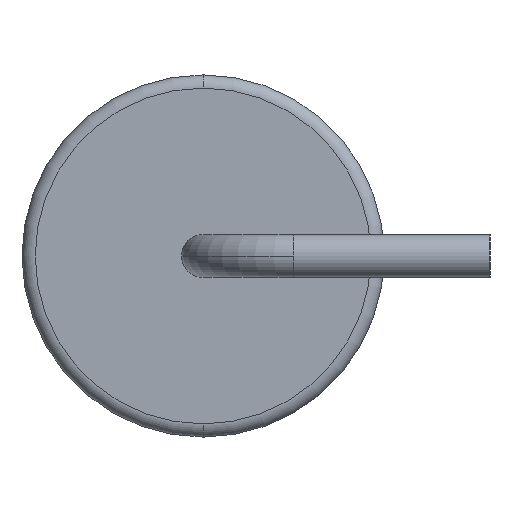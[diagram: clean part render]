
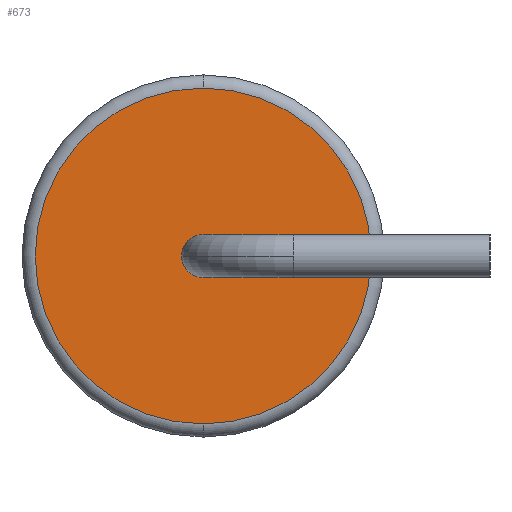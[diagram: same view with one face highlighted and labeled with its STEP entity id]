
A CAD part, left-side view. The second image highlights one B-rep face of the part: STEP entity #673.
In plain terms, the highlighted planar face has unit normal (-1, 0, 0).
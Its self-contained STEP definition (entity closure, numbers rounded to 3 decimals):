
#508 = CARTESIAN_POINT ( 'NONE',  ( -8.89, 3.425, 3.175 ) ) ;
#509 = VERTEX_POINT ( 'NONE', #508 ) ;
#510 = CARTESIAN_POINT ( 'NONE',  ( -8.89, 3.425, -3.175 ) ) ;
#511 = VERTEX_POINT ( 'NONE', #510 ) ;
#512 = CARTESIAN_POINT ( 'NONE',  ( -8.89, 3.425, 0. ) ) ;
#513 = DIRECTION ( 'NONE',  ( -1., 0., 0. ) ) ;
#514 = DIRECTION ( 'NONE',  ( 0., 0., -1. ) ) ;
#515 = AXIS2_PLACEMENT_3D ( 'NONE', #512, #513, #514 ) ;
#516 = CIRCLE ( 'NONE', #515, 3.175) ;
#517 = EDGE_CURVE ( 'NONE', #509, #511, #516, .T. ) ;
#658 = CARTESIAN_POINT ( 'NONE',  ( -8.89, 3.425, 0. ) ) ;
#659 = DIRECTION ( 'NONE',  ( -1., 0., 0. ) ) ;
#660 = DIRECTION ( 'NONE',  ( 0., 0., -1. ) ) ;
#661 = AXIS2_PLACEMENT_3D ( 'NONE', #658, #659, #660 ) ;
#662 = CIRCLE ( 'NONE', #661, 3.175) ;
#663 = EDGE_CURVE ( 'NONE', #511, #509, #662, .T. ) ;
#664 = ORIENTED_EDGE ( 'NONE', *, *, #663, .T. ) ;
#665 = ORIENTED_EDGE ( 'NONE', *, *, #517, .T. ) ;
#666 = EDGE_LOOP ( 'NONE', ( #664, #665 ) ) ;
#667 = FACE_OUTER_BOUND ( 'NONE', #666, .T. ) ;
#668 = CARTESIAN_POINT ( 'NONE',  ( -8.89, 3.425, 0. ) ) ;
#669 = DIRECTION ( 'NONE',  ( 1., 0., 0. ) ) ;
#670 = DIRECTION ( 'NONE',  ( 0., 0., -1. ) ) ;
#671 = AXIS2_PLACEMENT_3D ( 'NONE', #668, #669, #670 ) ;
#672 = PLANE ( 'NONE', #671 ) ;
#673 = ADVANCED_FACE ( 'NONE', ( #667 ), #672, .F. ) ;
